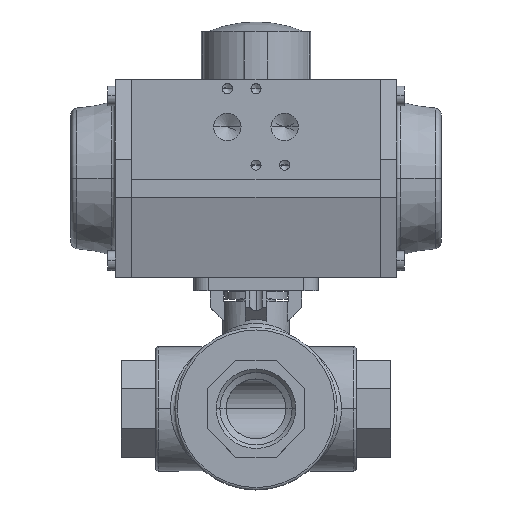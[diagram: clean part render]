
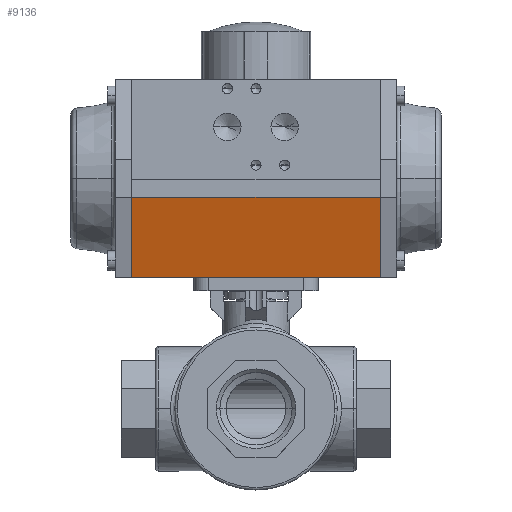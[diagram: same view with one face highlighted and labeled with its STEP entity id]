
A CAD part, top view. The second image highlights one B-rep face of the part: STEP entity #9136.
In plain terms, the highlighted planar face has unit normal (0, -0.26, 0.966) as drawn and (0.966, -0.259, 0) by its records, which use the part's own axes.
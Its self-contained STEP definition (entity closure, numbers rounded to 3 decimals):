
#2032 = ORIENTED_EDGE ( 'NONE', *, *, #14427, .T. ) ;
#2033 = ORIENTED_EDGE ( 'NONE', *, *, #14425, .F. ) ;
#2034 = ORIENTED_EDGE ( 'NONE', *, *, #14424, .F. ) ;
#2035 = ORIENTED_EDGE ( 'NONE', *, *, #14423, .T. ) ;
#5934 = PLANE ( 'NONE',  #9924 ) ;
#5939 = CARTESIAN_POINT ( 'NONE',  ( 27.5, -41.5, -52. ) ) ;
#5946 = FACE_OUTER_BOUND ( 'NONE', #14922, .T. ) ;
#5950 = DIRECTION ( 'NONE',  ( 0.966, -0.259, 0. ) ) ;
#5952 = DIRECTION ( 'NONE',  ( 0.259, 0.966, 0. ) ) ;
#6248 = CARTESIAN_POINT ( 'NONE',  ( 27.5, -41.5, -52. ) ) ;
#6297 = LINE ( 'NONE', #6310, #9276 ) ;
#6298 = LINE ( 'NONE', #6248, #9274 ) ;
#6308 = DIRECTION ( 'NONE',  ( 0.259, 0.966, 0. ) ) ;
#6310 = CARTESIAN_POINT ( 'NONE',  ( 27.5, -41.5, -52. ) ) ;
#6312 = DIRECTION ( 'NONE',  ( 0., 0., 1. ) ) ;
#6314 = LINE ( 'NONE', #6317, #9279 ) ;
#6317 = CARTESIAN_POINT ( 'NONE',  ( 27.5, -41.5, 52. ) ) ;
#6319 = DIRECTION ( 'NONE',  ( 0.259, 0.966, 0. ) ) ;
#6326 = LINE ( 'NONE', #6329, #9281 ) ;
#6329 = CARTESIAN_POINT ( 'NONE',  ( 36.5, -8., -52. ) ) ;
#6331 = DIRECTION ( 'NONE',  ( 0., 0., 1. ) ) ;
#8037 = CARTESIAN_POINT ( 'NONE',  ( 27.5, -41.5, -52. ) ) ;
#8039 = CARTESIAN_POINT ( 'NONE',  ( 36.5, -8., -52. ) ) ;
#8040 = CARTESIAN_POINT ( 'NONE',  ( 36.5, -8., 52. ) ) ;
#8072 = CARTESIAN_POINT ( 'NONE',  ( 27.5, -41.5, 52. ) ) ;
#9136 = ADVANCED_FACE ( 'NONE', ( #5946 ), #5934, .T. ) ;
#9274 = VECTOR ( 'NONE', #6308, 1000. ) ;
#9276 = VECTOR ( 'NONE', #6312, 1000. ) ;
#9279 = VECTOR ( 'NONE', #6319, 1000. ) ;
#9281 = VECTOR ( 'NONE', #6331, 1000. ) ;
#9924 = AXIS2_PLACEMENT_3D ( 'NONE', #5939, #5950, #5952 ) ;
#12250 = VERTEX_POINT ( 'NONE', #8037 ) ;
#12253 = VERTEX_POINT ( 'NONE', #8039 ) ;
#12254 = VERTEX_POINT ( 'NONE', #8040 ) ;
#12311 = VERTEX_POINT ( 'NONE', #8072 ) ;
#14423 = EDGE_CURVE ( 'NONE', #12250, #12253, #6298, .T. ) ;
#14424 = EDGE_CURVE ( 'NONE', #12250, #12311, #6297, .T. ) ;
#14425 = EDGE_CURVE ( 'NONE', #12311, #12254, #6314, .T. ) ;
#14427 = EDGE_CURVE ( 'NONE', #12253, #12254, #6326, .T. ) ;
#14922 = EDGE_LOOP ( 'NONE', ( #2032, #2033, #2034, #2035 ) ) ;
